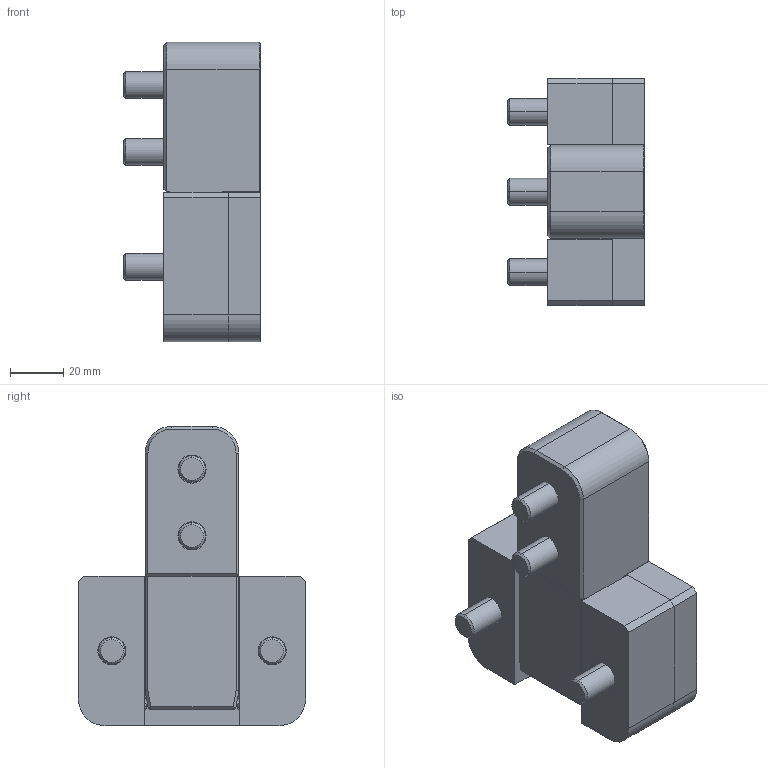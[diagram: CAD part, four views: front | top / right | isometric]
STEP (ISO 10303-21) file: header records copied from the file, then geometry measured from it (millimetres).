
FILE_DESCRIPTION (( 'STEP AP214' ), '1' );
FILE_NAME ('CL508085050.STEP', '2024-03-07T20:32:49', ( '' ), ( '' ), 'SwSTEP 2.0', 'SolidWorks 2017', '' );
FILE_SCHEMA (( 'AUTOMOTIVE_DESIGN' ));
Length unit declared in the file: millimetre
Products named in the file (6): CL508085_Guide; CL508085050_Bar; CL508085050; SHCS_M10x40
Assembly tree (8 placements, depth 3):
  CL508085050
    CL508085050_Bar
      CL508085050_Bar
      SHCS_M10x40  x2
    CL508085_Guide
      CL508085_Guide
      SHCS_M10x40  x2
Bounding box: 51 x 85 x 112 mm (x, y, z)
Volume: 228252.7 mm3; surface area: 70881.1 mm2
Topology: 74 solids, 74 shells, 523 faces, 1039 edges, 676 vertices
Faces by surface type: plane 261, bspline 132, cylinder 106, cone 24
Entity records: 14709 total; most frequent: CARTESIAN_POINT 4171, DIRECTION 2141, ORIENTED_EDGE 1842, EDGE_CURVE 921, AXIS2_PLACEMENT_3D 910, VERTEX_POINT 604, CIRCLE 560, EDGE_LOOP 503
